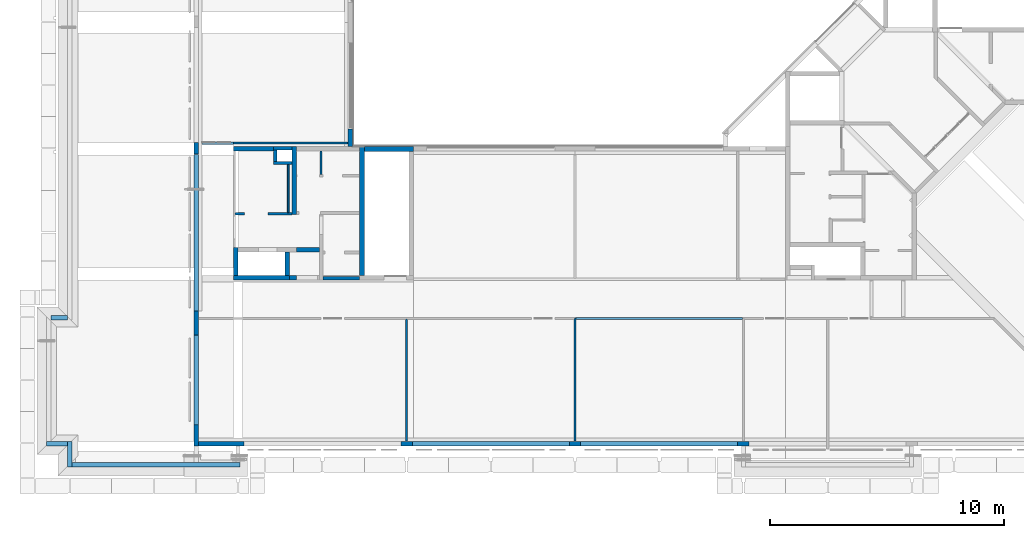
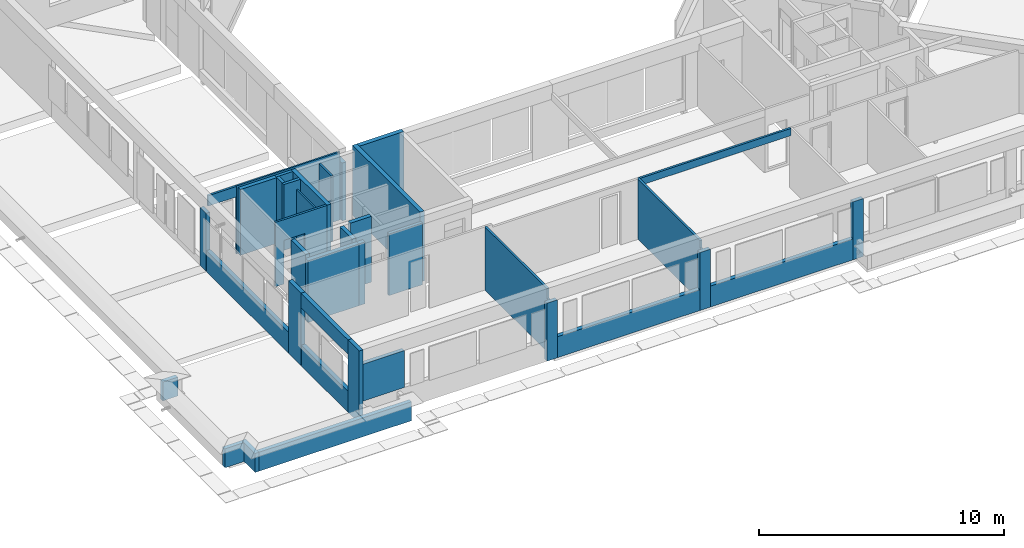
# One storey, part 10 of 38: 38 walls.
"""IFC4X3_ADD2 building model written with IfcOpenShell, lengths in millimetres."""

from ifc_helpers import new_model, si_unit, direction, frame, frame_2d, origin_with_axes, origin_2d_with_axis, place, context, subcontext, project, spatial, polyline, rectangle, outline, extrude, source, transform, mapped, material, type_object, type_shapes, element, save


model = new_model("IFC4X3_ADD2")

# Units and contexts
model_context = context("Model", 3, precision=1e-05, world=origin_with_axes(), true_north=direction((0.0, 1.0)))
body_context = subcontext(model_context, "Body", "Model", "MODEL_VIEW")
ifc_project = project(units=[si_unit("LENGTHUNIT", "METRE", prefix="MILLI"), si_unit("AREAUNIT", "SQUARE_METRE"), si_unit("VOLUMEUNIT", "CUBIC_METRE"), si_unit("PLANEANGLEUNIT", "RADIAN"), si_unit("TIMEUNIT", "SECOND"), si_unit("MASSUNIT", "GRAM")], contexts=[model_context])

# Site, building, storey
site_placement = place(None, origin_with_axes())
site = spatial("IfcSite", under=ifc_project, at=site_placement, Name="Site", CompositionType="ELEMENT")
building_placement = place(site_placement, origin_with_axes())
building = spatial("IfcBuilding", under=site, at=building_placement, Name="IFC Building Story")
storey_placement = place(building_placement, frame((0.0, 0.0, 10800.0), z_axis=(0.0, 0.0, 1.0), x_axis=(1.0, 0.0, 0.0)))
storey = spatial("IfcBuildingStorey", under=building, at=storey_placement, Name="030", Elevation=10800.0)

# Walls
ifc_material_1 = material(Name="BB_Beton_Bestaand")
wall_type_1 = type_object("IfcWallType", Name="BB_Beton_Bestaand 200", PredefinedType="NOTDEFINED", material=ifc_material_1)
wall_1_placement = place(storey_placement, origin_with_axes())
element("IfcWall", 1, at=wall_1_placement, inside=storey, type_object=wall_type_1, Name="Basic Wall:BB_XX_Wand uit beton, 200 mm", ObjectType="Basic Wall:BB_XX_Wand uit beton, 200 mm", PredefinedType="SOLIDWALL", context=body_context, shape_type="SweptSolid", body=[
    extrude(rectangle(XDim=2100.000000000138, YDim=199.9999999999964, at=origin_2d_with_axis()), frame((-37049.99999999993, 12600.004065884, -80.0), z_axis=(0.0, 0.0, 1.0), x_axis=(1.0, 0.0, 0.0)), (0.0, 0.0, 1.0), 3480.0),
])
wall_2_placement = place(storey_placement, origin_with_axes())
element("IfcWall", 2, at=wall_2_placement, inside=storey, type_object=wall_type_1, Name="Basic Wall:BB_XX_Wand uit beton, 200 mm", ObjectType="Basic Wall:BB_XX_Wand uit beton, 200 mm", PredefinedType="SOLIDWALL", context=body_context, shape_type="SweptSolid", body=[
    extrude(rectangle(XDim=5500.004065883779, YDim=200.0, at=frame_2d((0.0, 0.0), x_axis=(0.0, 1.0))), frame((-38200.0, 9950.00203294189, -80.0), z_axis=(0.0, 0.0, 1.0), x_axis=(1.0, 0.0, 0.0)), (0.0, 0.0, 1.0), 3480.0),
])
wall_3_placement = place(storey_placement, origin_with_axes())
element("IfcWall", 3, at=wall_3_placement, inside=storey, type_object=wall_type_1, Name="Basic Wall:BB_XX_Wand uit beton, 200 mm", ObjectType="Basic Wall:BB_XX_Wand uit beton, 200 mm", PredefinedType="SOLIDWALL", context=body_context, shape_type="SweptSolid", body=[
    extrude(rectangle(XDim=300.0, YDim=200.0, at=origin_2d_with_axis()), frame((-41150.0, 7100.0, -80.0), z_axis=(0.0, 0.0, 1.0), x_axis=(1.0, 0.0, 0.0)), (0.0, 0.0, 1.0), 3070.0),
])
wall_type_2 = type_object("IfcWallType", Name="BB_Beton_Bestaand 190", PredefinedType="NOTDEFINED", material=ifc_material_1)
wall_4_placement = place(storey_placement, origin_with_axes())
element("IfcWall", 4, at=wall_4_placement, inside=storey, type_object=wall_type_2, Name="Basic Wall:BB_XX_Wand uit beton, 190 mm", ObjectType="Basic Wall:BB_XX_Wand uit beton, 190 mm", PredefinedType="SOLIDWALL", context=body_context, shape_type="SweptSolid", body=[
    extrude(rectangle(XDim=489.9999999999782, YDim=190.0, at=origin_2d_with_axis()), frame((-36300.00000000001, 0.0, -200.0), z_axis=(0.0, 0.0, 1.0), x_axis=(1.0, 0.0, 0.0)), (0.0, 0.0, 1.0), 2879.99999999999),
])
wall_5_placement = place(storey_placement, origin_with_axes())
element("IfcWall", 5, at=wall_5_placement, inside=storey, type_object=wall_type_2, Name="Basic Wall:BB_XX_Wand uit beton, 190 mm", ObjectType="Basic Wall:BB_XX_Wand uit beton, 190 mm", PredefinedType="SOLIDWALL", context=body_context, shape_type="SweptSolid", body=[
    extrude(rectangle(XDim=6709.999999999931, YDim=190.0, at=origin_2d_with_axis()), frame((-25500.00000000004, 0.0, -200.0), z_axis=(0.0, 0.0, 1.0), x_axis=(1.0, 0.0, 0.0)), (0.0, 0.0, 1.0), 1040.0),
])
wall_6_placement = place(storey_placement, origin_with_axes())
element("IfcWall", 6, at=wall_6_placement, inside=storey, type_object=wall_type_2, Name="Basic Wall:BB_XX_Wand uit beton, 190 mm", ObjectType="Basic Wall:BB_XX_Wand uit beton, 190 mm", PredefinedType="SOLIDWALL", context=body_context, shape_type="SweptSolid", body=[
    extrude(rectangle(XDim=7180.000000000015, YDim=190.0, at=origin_2d_with_axis()), frame((-47014.99999999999, -900.0, -200.0), z_axis=(0.0, 0.0, 1.0), x_axis=(1.0, 0.0, 0.0)), (0.0, 0.0, 1.0), 940.000000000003),
])
wall_7_placement = place(storey_placement, origin_with_axes())
element("IfcWall", 7, at=wall_7_placement, inside=storey, type_object=wall_type_2, Name="Basic Wall:BB_XX_Wand uit beton, 190 mm", ObjectType="Basic Wall:BB_XX_Wand uit beton, 190 mm", PredefinedType="SOLIDWALL", context=body_context, shape_type="SweptSolid", body=[
    extrude(rectangle(XDim=1089.99999999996, YDim=189.9999999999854, at=frame_2d((0.0, 0.0), x_axis=(0.0, 1.0))), frame((-50700.0, -450.00000000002, -200.0), z_axis=(0.0, 0.0, 1.0), x_axis=(1.0, 0.0, 0.0)), (0.0, 0.0, 1.0), 940.000000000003),
])
wall_8_placement = place(storey_placement, origin_with_axes())
element("IfcWall", 8, at=wall_8_placement, inside=storey, type_object=wall_type_2, Name="Basic Wall:BB_XX_Wand uit beton, 190 mm", ObjectType="Basic Wall:BB_XX_Wand uit beton, 190 mm", PredefinedType="SOLIDWALL", context=body_context, shape_type="SweptSolid", body=[
    extrude(rectangle(XDim=900.0000000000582, YDim=190.0, at=origin_2d_with_axis()), frame((-51245.00000000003, 0.0, -200.0), z_axis=(0.0, 0.0, 1.0), x_axis=(1.0, 0.0, 0.0)), (0.0, 0.0, 1.0), 940.000000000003),
])
wall_9_placement = place(storey_placement, origin_with_axes())
element("IfcWall", 9, at=wall_9_placement, inside=storey, type_object=wall_type_2, Name="Basic Wall:BB_XX_Wand uit beton, 190 mm", ObjectType="Basic Wall:BB_XX_Wand uit beton, 190 mm", PredefinedType="SOLIDWALL", context=body_context, shape_type="SweptSolid", body=[
    extrude(rectangle(XDim=910.00000000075, YDim=189.9999999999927, at=frame_2d((0.0, 0.0), x_axis=(0.0, 1.0))), frame((-45285.0, 360.000000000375, -200.0), z_axis=(0.0, 0.0, 1.0), x_axis=(1.0, 0.0, 0.0)), (0.0, 0.0, 1.0), 3600.0),
])
wall_10_placement = place(storey_placement, origin_with_axes())
element("IfcWall", 10, at=wall_10_placement, inside=storey, type_object=wall_type_2, Name="Basic Wall:BB_XX_Wand uit beton, 190 mm", ObjectType="Basic Wall:BB_XX_Wand uit beton, 190 mm", PredefinedType="SOLIDWALL", context=body_context, shape_type="SweptSolid", body=[
    extrude(rectangle(XDim=489.9999999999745, YDim=190.0, at=origin_2d_with_axis()), frame((-29100.00000000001, 0.0, -200.0), z_axis=(0.0, 0.0, 1.0), x_axis=(1.0, 0.0, 0.0)), (0.0, 0.0, 1.0), 2879.99999999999),
])
wall_11_placement = place(storey_placement, origin_with_axes())
element("IfcWall", 11, at=wall_11_placement, inside=storey, type_object=wall_type_2, Name="Basic Wall:BB_XX_Wand uit beton, 190 mm", ObjectType="Basic Wall:BB_XX_Wand uit beton, 190 mm", PredefinedType="SOLIDWALL", context=body_context, shape_type="SweptSolid", body=[
    extrude(rectangle(XDim=489.9999999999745, YDim=190.0, at=origin_2d_with_axis()), frame((-21900.00000000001, 0.0, -200.0), z_axis=(0.0, 0.0, 1.0), x_axis=(1.0, 0.0, 0.0)), (0.0, 0.0, 1.0), 2879.99999999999),
])
wall_12_placement = place(storey_placement, origin_with_axes())
element("IfcWall", 12, at=wall_12_placement, inside=storey, type_object=wall_type_2, Name="Basic Wall:BB_XX_Wand uit beton, 190 mm", ObjectType="Basic Wall:BB_XX_Wand uit beton, 190 mm", PredefinedType="SOLIDWALL", context=body_context, shape_type="SweptSolid", body=[
    extrude(rectangle(XDim=6709.999999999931, YDim=190.0, at=origin_2d_with_axis()), frame((-32700.00000000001, 0.0, -200.0), z_axis=(0.0, 0.0, 1.0), x_axis=(1.0, 0.0, 0.0)), (0.0, 0.0, 1.0), 1040.0),
])
wall_13_placement = place(storey_placement, origin_with_axes())
element("IfcWall", 13, at=wall_13_placement, inside=storey, type_object=wall_type_2, Name="Basic Wall:BB_XX_Wand uit beton, 190 mm", ObjectType="Basic Wall:BB_XX_Wand uit beton, 190 mm", PredefinedType="SOLIDWALL", context=body_context, shape_type="SweptSolid", body=[
    extrude(rectangle(XDim=1934.999999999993, YDim=190.0, at=origin_2d_with_axis()), frame((-44222.49999999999, 0.0, 840.0), z_axis=(0.0, 0.0, 1.0), x_axis=(1.0, 0.0, 0.0)), (0.0, 0.0, 1.0), 1840.0),
])
wall_14_placement = place(storey_placement, origin_with_axes())
element("IfcWall", 14, at=wall_14_placement, inside=storey, type_object=wall_type_2, Name="Basic Wall:BB_XX_Wand uit beton, 190 mm", ObjectType="Basic Wall:BB_XX_Wand uit beton, 190 mm", PredefinedType="SOLIDWALL", context=body_context, shape_type="SweptSolid", body=[
    extrude(rectangle(XDim=489.9999999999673, YDim=189.9999999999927, at=frame_2d((0.0, 0.0), x_axis=(0.0, 1.0))), frame((-45285.0, 12629.99999999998, -200.0), z_axis=(0.0, 0.0, 1.0), x_axis=(1.0, 0.0, 0.0)), (0.0, 0.0, 1.0), 2879.99999999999),
])
wall_15_placement = place(storey_placement, origin_with_axes())
element("IfcWall", 15, at=wall_15_placement, inside=storey, type_object=wall_type_2, Name="Basic Wall:BB_XX_Wand uit beton, 190 mm", ObjectType="Basic Wall:BB_XX_Wand uit beton, 190 mm", PredefinedType="SOLIDWALL", context=body_context, shape_type="SweptSolid", body=[
    extrude(rectangle(XDim=6710.0000000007, YDim=189.9999999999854, at=frame_2d((0.0, 0.0), x_axis=(0.0, 1.0))), frame((-45285.0, 9000.00000000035, -200.0), z_axis=(0.0, 0.0, 1.0), x_axis=(1.0, 0.0, 0.0)), (0.0, 0.0, 1.0), 1040.0),
])
wall_16_placement = place(storey_placement, origin_with_axes())
element("IfcWall", 16, at=wall_16_placement, inside=storey, type_object=wall_type_2, Name="Basic Wall:BB_XX_Wand uit beton, 190 mm", ObjectType="Basic Wall:BB_XX_Wand uit beton, 190 mm", PredefinedType="SOLIDWALL", context=body_context, shape_type="SweptSolid", body=[
    extrude(rectangle(XDim=754.995934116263, YDim=190.0, at=frame_2d((0.0, 0.0), x_axis=(0.0, 1.0))), frame((-38700.0, 13077.50203294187, -200.0), z_axis=(0.0, 0.0, 1.0), x_axis=(1.0, 0.0, 0.0)), (0.0, 0.0, 1.0), 2880.0),
])
wall_17_placement = place(storey_placement, origin_with_axes())
element("IfcWall", 17, at=wall_17_placement, inside=storey, type_object=wall_type_2, Name="Basic Wall:BB_XX_Wand uit beton, 190 mm", ObjectType="Basic Wall:BB_XX_Wand uit beton, 190 mm", PredefinedType="SOLIDWALL", context=body_context, shape_type="SweptSolid", body=[
    extrude(rectangle(XDim=1029.99999999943, YDim=189.9999999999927, at=frame_2d((0.0, 0.0), x_axis=(0.0, 1.0))), frame((-45285.0, 5159.999999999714, -200.0), z_axis=(0.0, 0.0, 1.0), x_axis=(1.0, 0.0, 0.0)), (0.0, 0.0, 1.0), 3600.0),
])
wall_18_placement = place(storey_placement, origin_with_axes())
element("IfcWall", 18, at=wall_18_placement, inside=storey, type_object=wall_type_2, Name="Basic Wall:BB_XX_Wand uit beton, 190 mm", ObjectType="Basic Wall:BB_XX_Wand uit beton, 190 mm", PredefinedType="SOLIDWALL", context=body_context, shape_type="SweptSolid", body=[
    extrude(rectangle(XDim=3830.0, YDim=189.9999999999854, at=frame_2d((0.0, 0.0), x_axis=(0.0, 1.0))), frame((-45285.0, 2730.0, 2680.0), z_axis=(0.0, 0.0, 1.0), x_axis=(1.0, 0.0, 0.0)), (0.0, 0.0, 1.0), 720.000000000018),
])
wall_19_placement = place(storey_placement, origin_with_axes())
element("IfcWall", 19, at=wall_19_placement, inside=storey, type_object=wall_type_2, Name="Basic Wall:BB_XX_Wand uit beton, 190 mm", ObjectType="Basic Wall:BB_XX_Wand uit beton, 190 mm", PredefinedType="SOLIDWALL", context=body_context, shape_type="SweptSolid", body=[
    extrude(rectangle(XDim=3830.0, YDim=189.9999999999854, at=frame_2d((0.0, 0.0), x_axis=(0.0, 1.0))), frame((-45285.0, 2700.0, -200.0), z_axis=(0.0, 0.0, 1.0), x_axis=(1.0, 0.0, 0.0)), (0.0, 0.0, 1.0), 1040.0),
])
ifc_material_2 = material(Name="BB_Metselwerk_Bestaand")
wall_type_3 = type_object("IfcWallType", Name="BB_Metselwerk_Bestaand 140", PredefinedType="NOTDEFINED", material=ifc_material_2)
wall_20_placement = place(storey_placement, origin_with_axes())
element("IfcWall", 20, at=wall_20_placement, inside=storey, type_object=wall_type_3, Name="Basic Wall:BB_XX_Wand uit metselwerk, 140 mm", ObjectType="Basic Wall:BB_XX_Wand uit metselwerk, 140 mm", PredefinedType="SOLIDWALL", context=body_context, shape_type="SweptSolid", body=[
    extrude(rectangle(XDim=790.0, YDim=140.0, at=origin_2d_with_axis()), frame((-41585.0, 12000.0040658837, -80.0), z_axis=(0.0, 0.0, 1.0), x_axis=(1.0, 0.0, 0.0)), (0.0, 0.0, 1.0), 3270.0),
])
wall_21_placement = place(storey_placement, origin_with_axes())
element("IfcWall", 21, at=wall_21_placement, inside=storey, type_object=wall_type_3, Name="Basic Wall:BB_XX_Wand uit metselwerk, 140 mm", ObjectType="Basic Wall:BB_XX_Wand uit metselwerk, 140 mm", PredefinedType="SOLIDWALL", context=body_context, shape_type="SweptSolid", body=[
    extrude(rectangle(XDim=490.0000000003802, YDim=140.0, at=frame_2d((0.0, 0.0), x_axis=(0.0, 1.0))), frame((-41910.0, 12315.00406588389, -80.0), z_axis=(0.0, 0.0, 1.0), x_axis=(1.0, 0.0, 0.0)), (0.0, 0.0, 1.0), 3270.0),
])
wall_22_placement = place(storey_placement, origin_with_axes())
element("IfcWall", 22, at=wall_22_placement, inside=storey, type_object=wall_type_3, Name="Basic Wall:BB_XX_Wand uit metselwerk, 140 mm", ObjectType="Basic Wall:BB_XX_Wand uit metselwerk, 140 mm", PredefinedType="SOLIDWALL", context=body_context, shape_type="SweptSolid", body=[
    extrude(rectangle(XDim=790.0000000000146, YDim=140.0, at=origin_2d_with_axis()), frame((-41584.99999999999, 12630.004065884, -80.0), z_axis=(0.0, 0.0, 1.0), x_axis=(1.0, 0.0, 0.0)), (0.0, 0.0, 1.0), 3270.0),
])
wall_23_placement = place(storey_placement, origin_with_axes())
element("IfcWall", 23, at=wall_23_placement, inside=storey, type_object=wall_type_3, Name="Basic Wall:BB_XX_Wand uit metselwerk, 140 mm", ObjectType="Basic Wall:BB_XX_Wand uit metselwerk, 140 mm", PredefinedType="SOLIDWALL", context=body_context, shape_type="SweptSolid", body=[
    extrude(rectangle(XDim=1569.999999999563, YDim=140.0, at=origin_2d_with_axis()), frame((-39085.00000000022, 7070.0, -80.0), z_axis=(0.0, 0.0, 1.0), x_axis=(1.0, 0.0, 0.0)), (0.0, 0.0, 1.0), 3070.0),
])
wall_type_4 = type_object("IfcWallType", Name="BB_Metselwerk_Bestaand 190", PredefinedType="NOTDEFINED", material=ifc_material_2)
wall_24_placement = place(storey_placement, origin_with_axes())
element("IfcWall", 24, at=wall_24_placement, inside=storey, type_object=wall_type_4, Name="Basic Wall:BB_XX_Wand uit metselwerk, 190 mm", ObjectType="Basic Wall:BB_XX_Wand uit metselwerk, 190 mm", PredefinedType="SOLIDWALL", context=body_context, shape_type="SweptSolid", body=[
    extrude(rectangle(XDim=1189.999999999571, YDim=189.9999999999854, at=frame_2d((0.0, 0.0), x_axis=(0.0, 1.0))), frame((-43595.0, 7794.999999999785, -80.0), z_axis=(0.0, 0.0, 1.0), x_axis=(1.0, 0.0, 0.0)), (0.0, 0.0, 1.0), 3270.0),
])
wall_25_placement = place(storey_placement, origin_with_axes())
element("IfcWall", 25, at=wall_25_placement, inside=storey, type_object=wall_type_4, Name="Basic Wall:BB_XX_Wand uit metselwerk, 190 mm", ObjectType="Basic Wall:BB_XX_Wand uit metselwerk, 190 mm", PredefinedType="SOLIDWALL", context=body_context, shape_type="SweptSolid", body=[
    extrude(rectangle(XDim=999.9999999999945, YDim=189.9999999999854, at=frame_2d((0.0, 0.0), x_axis=(0.0, 1.0))), frame((-41405.0, 7700.00000000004, -80.0), z_axis=(0.0, 0.0, 1.0), x_axis=(1.0, 0.0, 0.0)), (0.0, 0.0, 1.0), 3270.0),
])
wall_26_placement = place(storey_placement, origin_with_axes())
element("IfcWall", 26, at=wall_26_placement, inside=storey, type_object=wall_type_4, Name="Basic Wall:BB_XX_Wand uit metselwerk, 190 mm", ObjectType="Basic Wall:BB_XX_Wand uit metselwerk, 190 mm", PredefinedType="SOLIDWALL", context=body_context, shape_type="SweptSolid", body=[
    extrude(rectangle(XDim=2908.96000000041, YDim=189.9999999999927, at=frame_2d((0.0, 0.0), x_axis=(0.0, 1.0))), frame((-41095.0, 11245.52406588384, -80.0), z_axis=(0.0, 0.0, 1.0), x_axis=(1.0, 0.0, 0.0)), (0.0, 0.0, 1.0), 3270.0),
])
ifc_material_3 = material(Name="BB_Metselwerk_Betonsteen")
wall_type_5 = type_object("IfcWallType", Name="BB_Metselwerk_Betonsteen 190", PredefinedType="NOTDEFINED", material=ifc_material_3)
wall_27_placement = place(storey_placement, origin_with_axes())
element("IfcWall", 27, at=wall_27_placement, inside=storey, type_object=wall_type_5, Name="Basic Wall:BB_03.09.24#03_Wand uit metselwerk, 190 mm", ObjectType="Basic Wall:BB_03.09.24#03_Wand uit metselwerk, 190 mm", PredefinedType="SOLIDWALL", context=body_context, shape_type="SweptSolid", body=[
    extrude(rectangle(XDim=709.9999999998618, YDim=190.0, at=origin_2d_with_axis()), frame((-51149.99999999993, 5380.0, -200.0), z_axis=(0.0, 0.0, 1.0), x_axis=(1.0, 0.0, 0.0)), (0.0, 0.0, 1.0), 940.000000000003),
])
wall_28_placement = place(storey_placement, origin_with_axes())
element("IfcWall", 28, at=wall_28_placement, inside=storey, type_object=wall_type_5, Name="Basic Wall:BB_03.09.24#03_Wand uit metselwerk, 190 mm", ObjectType="Basic Wall:BB_03.09.24#03_Wand uit metselwerk, 190 mm", PredefinedType="SOLIDWALL", context=body_context, shape_type="SweptSolid", body=[
    extrude(rectangle(XDim=990.0, YDim=190.0, at=origin_2d_with_axis()), frame((-40505.0, 8295.0, -80.0), z_axis=(0.0, 0.0, 1.0), x_axis=(1.0, 0.0, 0.0)), (0.0, 0.0, 1.0), 3270.0),
])
wall_29_placement = place(storey_placement, origin_with_axes())
element("IfcWall", 29, at=wall_29_placement, inside=storey, type_object=wall_type_5, Name="Basic Wall:BB_03.09.24#04_Wand uit metselwerk_vol, 190 mm", ObjectType="Basic Wall:BB_03.09.24#04_Wand uit metselwerk_vol, 190 mm", PredefinedType="SOLIDWALL", context=body_context, shape_type="SweptSolid", body=[
    extrude(rectangle(XDim=1710.0, YDim=190.0, at=origin_2d_with_axis()), frame((-42835.0, 12605.004065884, -80.0), z_axis=(0.0, 0.0, 1.0), x_axis=(1.0, 0.0, 0.0)), (0.0, 0.0, 1.0), 3270.0),
])
wall_type_6 = type_object("IfcWallType", Name="Basic Wall_BB_10.01.41#02_Gipskartonwand_Vochtbestendig_MS100 _ 25.50.25_ 100 mm", PredefinedType="NOTDEFINED")
shared_shape_1 = source(origin_with_axes(), body_context, "Body", "SweptSolid", [
    extrude(outline(polyline([(1046.250000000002, 1342.500000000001), (1046.250000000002, -1857.499999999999), (-1368.750000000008, -1857.499999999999), (-1368.750000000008, 1342.500000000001), (-333.7499999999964, 1342.500000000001), (-333.7499999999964, -827.5000000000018), (656.2500000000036, -827.5000000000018), (656.2500000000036, 1342.500000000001), (1046.250000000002, 1342.500000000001)])), frame((1368.749999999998, 37.50000000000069, 1342.500000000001), z_axis=(0.0, 1.0, 0.0), x_axis=(1.0, 0.0, 0.0)), (0.0, 0.0, 1.0), 12.49999999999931),
    extrude(outline(polyline([(-1371.875000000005, 1342.500000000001), (-336.8749999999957, 1342.500000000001), (-336.8749999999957, -827.500000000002), (653.1250000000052, -827.500000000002), (653.1250000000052, 1342.500000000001), (1055.624999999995, 1342.500000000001), (1055.624999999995, -1857.499999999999), (-1371.875000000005, -1857.499999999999), (-1371.875000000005, 1342.500000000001)])), frame((1371.875000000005, 25.0, 1342.500000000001), z_axis=(0.0, 1.0, 0.0), x_axis=(1.0, 0.0, 0.0)), (0.0, 0.0, 1.0), 12.49999999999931),
    extrude(outline(polyline([(-1375.000000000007, 1342.500000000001), (-339.9999999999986, 1342.500000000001), (-339.9999999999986, -827.500000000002), (650.0000000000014, -827.500000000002), (650.0000000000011, 1342.500000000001), (1065.000000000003, 1342.500000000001), (1065.000000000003, -1857.499999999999), (-1375.000000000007, -1857.499999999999), (-1375.000000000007, 1342.500000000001)])), frame((1375.000000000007, -25.0000000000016, 1342.500000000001), z_axis=(0.0, 1.0, 0.0), x_axis=(1.0, 0.0, 0.0)), (0.0, 0.0, 1.0), 50.00000000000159),
    extrude(outline(polyline([(-1368.750000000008, 1342.500000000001), (-333.7499999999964, 1342.500000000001), (-333.7499999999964, -827.5000000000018), (656.2500000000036, -827.5000000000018), (656.2500000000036, 1342.500000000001), (1046.250000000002, 1342.500000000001), (1046.250000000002, -1857.499999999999), (-1368.750000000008, -1857.499999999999), (-1368.750000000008, 1342.500000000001)])), frame((1368.749999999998, -37.49999999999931, 1342.500000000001), z_axis=(0.0, 1.0, 0.0), x_axis=(1.0, 0.0, 0.0)), (0.0, 0.0, 1.0), 12.49999999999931),
    extrude(outline(polyline([(-1368.750000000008, 1342.500000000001), (-333.7499999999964, 1342.500000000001), (-333.7499999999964, -827.5000000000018), (656.2500000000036, -827.5000000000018), (656.2500000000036, 1342.500000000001), (1046.250000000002, 1342.500000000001), (1046.250000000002, -1857.499999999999), (-1368.750000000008, -1857.499999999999), (-1368.750000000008, 1342.500000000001)])), frame((1368.749999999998, -49.9999999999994, 1342.500000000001), z_axis=(0.0, 1.0, 0.0), x_axis=(1.0, 0.0, 0.0)), (0.0, 0.0, 1.0), 12.4999999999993),
])
type_shapes(wall_type_6, [shared_shape_1])
wall_30_placement = place(storey_placement, frame((-41190.0, 9826.04406588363, -10.0), z_axis=(0.0, 0.0, 1.0), x_axis=(-1.0, 0.0, 0.0)))
element("IfcWall", 30, at=wall_30_placement, inside=storey, type_object=wall_type_6, Name="Basic Wall:BB_10.01.41#02_Gipskartonwand_Vochtbestendig_MS100 / 25.50.25, 100 mm", ObjectType="Basic Wall:BB_10.01.41#02_Gipskartonwand_Vochtbestendig_MS100 / 25.50.25, 100 mm", PredefinedType="PARTITIONING", context=body_context, shape_type="MappedRepresentation", body=[
    mapped(shared_shape_1, transform((0.0, 0.0, 0.0))),
])
wall_type_7 = type_object("IfcWallType", Name="Basic Wall_BB_10.01.41#03_Gipskartonwand_43dB_MS100 _ 25.50.25_ 100 mm83", PredefinedType="NOTDEFINED")
shared_shape_2 = source(origin_with_axes(), body_context, "Body", "SweptSolid", [
    extrude(outline(polyline([(-1775.83333333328, -760.0000000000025), (-1775.83333333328, 1880.000000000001), (3416.66666666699, 1880.000000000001), (3416.66666666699, -1119.999999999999), (-1640.833333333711, -1119.999999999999), (-1640.833333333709, -760.0000000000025), (-1775.83333333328, -760.0000000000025)])), frame((1775.83333333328, 37.49999999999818, 1880.000000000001), z_axis=(0.0, 1.0, 0.0), x_axis=(1.0, 0.0, 0.0)), (0.0, 0.0, 1.0), 12.50000000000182),
    extrude(outline(polyline([(-1779.999999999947, -760.0), (-1779.999999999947, 1880.0), (3425.000000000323, 1880.0), (3425.000000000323, -1120.0), (-1645.000000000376, -1120.0), (-1645.000000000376, -760.0), (-1779.999999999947, -760.0)])), frame((1779.999999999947, 24.99999999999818, 1880.0), z_axis=(0.0, 1.0, 0.0), x_axis=(1.0, 0.0, 0.0)), (0.0, 0.0, 1.0), 12.50000000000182),
    extrude(outline(polyline([(-1793.333333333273, -759.9999999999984), (-1793.333333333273, 1880.0), (3461.666666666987, 1880.0), (3461.666666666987, -1120.0), (-1668.333333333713, -1120.0), (-1668.333333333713, -760.0), (-1793.333333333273, -759.9999999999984)])), frame((1793.333333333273, -24.99999999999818, 1880.0), z_axis=(0.0, 1.0, 0.0), x_axis=(1.0, 0.0, 0.0)), (0.0, 0.0, 1.0), 49.99999999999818),
    extrude(outline(polyline([(-1800.83333333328, -760.0000000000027), (-1800.83333333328, 1880.0), (3466.66666666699, 1880.0), (3466.66666666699, -1119.999999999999), (-1665.833333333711, -1119.999999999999), (-1665.833333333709, -760.0), (-1800.83333333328, -760.0000000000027)])), frame((1800.83333333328, -37.50000000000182, 1880.0), z_axis=(0.0, 1.0, 0.0), x_axis=(1.0, 0.0, 0.0)), (0.0, 0.0, 1.0), 12.50000000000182),
    extrude(outline(polyline([(-1804.999999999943, -760.0), (-1804.999999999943, 1880.0), (3475.000000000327, 1880.0), (3475.000000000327, -1120.0), (-1670.000000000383, -1120.0), (-1670.000000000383, -760.0), (-1804.999999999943, -760.0)])), frame((1804.999999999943, -49.99999999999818, 1880.0), z_axis=(0.0, 1.0, 0.0), x_axis=(1.0, 0.0, 0.0)), (0.0, 0.0, 1.0), 12.49999999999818),
])
type_shapes(wall_type_7, [shared_shape_2])
wall_31_placement = place(storey_placement, frame((-29100.0, 120.0, 0.0), z_axis=(0.0, 0.0, 1.0), x_axis=(0.0, 1.0, 0.0)))
element("IfcWall", 31, at=wall_31_placement, inside=storey, type_object=wall_type_7, Name="Basic Wall:BB_10.01.41#03_Gipskartonwand_43dB_MS100 / 25.50.25, 100 mm", ObjectType="Basic Wall:BB_10.01.41#03_Gipskartonwand_43dB_MS100 / 25.50.25, 100 mm", PredefinedType="PARTITIONING", context=body_context, shape_type="MappedRepresentation", body=[
    mapped(shared_shape_2, transform((0.0, 0.0, 0.0))),
])
wall_type_8 = type_object("IfcWallType", Name="Basic Wall_BB_10.01.41#03_Gipskartonwand_43dB_MS100 _ 25.50.25_ 100 mm85", PredefinedType="NOTDEFINED")
shared_shape_3 = source(origin_with_axes(), body_context, "Body", "SweptSolid", [
    extrude(outline(polyline([(-1771.66666666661, 1926.666666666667), (3408.33333333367, 1926.666666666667), (3408.33333333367, -1213.333333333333), (-1636.666666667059, -1213.333333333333), (-1636.666666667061, -713.3333333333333), (-1771.66666666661, -713.3333333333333), (-1771.66666666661, 1926.666666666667)])), frame((1771.66666666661, 37.5, 1926.666666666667), z_axis=(0.0, 1.0, 0.0), x_axis=(1.0, 0.0, 0.0)), (0.0, 0.0, 1.0), 12.5),
    extrude(outline(polyline([(-1775.833333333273, -713.3333333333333), (-1775.833333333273, 1926.666666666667), (3416.666666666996, 1926.666666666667), (3416.666666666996, -1213.333333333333), (-1640.833333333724, -1213.333333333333), (-1640.833333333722, -713.3333333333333), (-1775.833333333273, -713.3333333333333)])), frame((1775.833333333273, 25.0, 1926.666666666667), z_axis=(0.0, 1.0, 0.0), x_axis=(1.0, 0.0, 0.0)), (0.0, 0.0, 1.0), 12.5),
    extrude(outline(polyline([(-1776.666666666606, -713.3333333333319), (-1776.666666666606, 1926.666666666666), (3428.333333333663, 1926.666666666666), (3428.333333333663, -1213.333333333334), (-1651.666666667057, -1213.333333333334), (-1651.666666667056, -713.3333333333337), (-1776.666666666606, -713.3333333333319)])), frame((1776.666666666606, -24.99999999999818, 1926.666666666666), z_axis=(0.0, 1.0, 0.0), x_axis=(1.0, 0.0, 0.0)), (0.0, 0.0, 1.0), 49.99999999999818),
    extrude(outline(polyline([(-1771.66666666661, 1926.666666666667), (3408.33333333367, 1926.666666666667), (3408.33333333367, -1213.333333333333), (-1636.666666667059, -1213.333333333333), (-1636.666666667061, -713.3333333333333), (-1771.66666666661, -713.3333333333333), (-1771.66666666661, 1926.666666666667)])), frame((1771.66666666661, -37.50000000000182, 1926.666666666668), z_axis=(0.0, 1.0, 0.0), x_axis=(1.0, 0.0, 0.0)), (0.0, 0.0, 1.0), 12.50000000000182),
    extrude(outline(polyline([(-1771.66666666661, 1926.666666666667), (3408.33333333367, 1926.666666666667), (3408.33333333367, -1213.333333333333), (-1636.666666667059, -1213.333333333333), (-1636.666666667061, -713.3333333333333), (-1771.66666666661, -713.3333333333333), (-1771.66666666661, 1926.666666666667)])), frame((1771.66666666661, -49.99999999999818, 1926.666666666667), z_axis=(0.0, 1.0, 0.0), x_axis=(1.0, 0.0, 0.0)), (0.0, 0.0, 1.0), 12.49999999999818),
])
type_shapes(wall_type_8, [shared_shape_3])
wall_32_placement = place(storey_placement, frame((-36300.0, 120.0, 0.0), z_axis=(0.0, 0.0, 1.0), x_axis=(0.0, 1.0, 0.0)))
element("IfcWall", 32, at=wall_32_placement, inside=storey, type_object=wall_type_8, Name="Basic Wall:BB_10.01.41#03_Gipskartonwand_43dB_MS100 / 25.50.25, 100 mm", ObjectType="Basic Wall:BB_10.01.41#03_Gipskartonwand_43dB_MS100 / 25.50.25, 100 mm", PredefinedType="PARTITIONING", context=body_context, shape_type="MappedRepresentation", body=[
    mapped(shared_shape_3, transform((0.0, 0.0, 0.0))),
])
wall_type_9 = type_object("IfcWallType", Name="Basic Wall_BB_10.01.62#02_Voorzetwand gipskarton_ sanitair_MS75 _ 50.25_ 75 mm13", PredefinedType="NOTDEFINED")
shared_shape_4 = source(origin_with_axes(), body_context, "Body", "SweptSolid", [
    extrude(rectangle(XDim=2053.96000000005, YDim=12.49999999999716, at=origin_2d_with_axis()), frame((1026.980000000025, 31.25000000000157, 0.0), z_axis=(0.0, 0.0, 1.0), x_axis=(1.0, 0.0, 0.0)), (0.0, 0.0, 1.0), 2750.0),
    extrude(rectangle(XDim=2053.96000000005, YDim=12.50000000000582, at=origin_2d_with_axis()), frame((1026.980000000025, 18.7500000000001, 0.0), z_axis=(0.0, 0.0, 1.0), x_axis=(1.0, 0.0, 0.0)), (0.0, 0.0, 1.0), 2750.0),
    extrude(rectangle(XDim=2053.96000000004, YDim=49.9999999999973, at=origin_2d_with_axis()), frame((1026.980000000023, -12.50000000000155, 0.0), z_axis=(0.0, 0.0, 1.0), x_axis=(1.0, 0.0, 0.0)), (0.0, 0.0, 1.0), 2750.0),
])
type_shapes(wall_type_9, [shared_shape_4])
wall_33_placement = place(storey_placement, frame((-41352.4999999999, 9876.04406588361, -10.0), z_axis=(0.0, 0.0, 1.0), x_axis=(0.0, 1.0, 0.0)))
element("IfcWall", 33, at=wall_33_placement, inside=storey, type_object=wall_type_9, Name="Basic Wall:BB_10.01.62#02_Voorzetwand gipskarton, sanitair_MS75 / 50.25, 75 mm", ObjectType="Basic Wall:BB_10.01.62#02_Voorzetwand gipskarton, sanitair_MS75 / 50.25, 75 mm", PredefinedType="PARTITIONING", context=body_context, shape_type="MappedRepresentation", body=[
    mapped(shared_shape_4, transform((0.0, 0.0, 0.0))),
])
wall_type_10 = type_object("IfcWallType", Name="Basic Wall_BB_10.01.41#01_Gipskartonwand_MS100 _ 25.50.25_ 100 mm145", PredefinedType="NOTDEFINED")
shared_shape_5 = source(origin_with_axes(), body_context, "Body", "SweptSolid", [
    extrude(rectangle(XDim=1334.999999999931, YDim=12.49999999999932, at=origin_2d_with_axis()), frame((667.4999999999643, 43.74999999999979, 0.0), z_axis=(0.0, 0.0, 1.0), x_axis=(1.0, 0.0, 0.0)), (0.0, 0.0, 1.0), 520.000000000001),
    extrude(rectangle(XDim=1334.999999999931, YDim=12.49999999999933, at=origin_2d_with_axis()), frame((667.4999999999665, 31.25000000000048, 0.0), z_axis=(0.0, 0.0, 1.0), x_axis=(1.0, 0.0, 0.0)), (0.0, 0.0, 1.0), 520.000000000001),
    extrude(rectangle(XDim=1334.999999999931, YDim=50.0000000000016, at=origin_2d_with_axis()), frame((667.4999999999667, 0.0, 0.0), z_axis=(0.0, 0.0, 1.0), x_axis=(1.0, 0.0, 0.0)), (0.0, 0.0, 1.0), 520.000000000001),
    extrude(rectangle(XDim=1334.999999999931, YDim=12.49999999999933, at=origin_2d_with_axis()), frame((667.4999999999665, -31.25000000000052, 0.0), z_axis=(0.0, 0.0, 1.0), x_axis=(1.0, 0.0, 0.0)), (0.0, 0.0, 1.0), 520.000000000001),
    extrude(rectangle(XDim=1334.999999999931, YDim=12.49999999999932, at=origin_2d_with_axis()), frame((667.4999999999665, -43.74999999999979, 0.0), z_axis=(0.0, 0.0, 1.0), x_axis=(1.0, 0.0, 0.0)), (0.0, 0.0, 1.0), 520.000000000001),
])
type_shapes(wall_type_10, [shared_shape_5])
wall_34_placement = place(storey_placement, frame((-45040.0, 12840.0040658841, 2670.0), z_axis=(0.0, 0.0, 1.0), x_axis=(1.0, 0.0, 0.0)))
element("IfcWall", 34, at=wall_34_placement, inside=storey, type_object=wall_type_10, Name="Basic Wall:BB_10.01.41#01_Gipskartonwand_MS100 / 25.50.25, 100 mm", ObjectType="Basic Wall:BB_10.01.41#01_Gipskartonwand_MS100 / 25.50.25, 100 mm", PredefinedType="PARTITIONING", context=body_context, shape_type="MappedRepresentation", body=[
    mapped(shared_shape_5, transform((0.0, 0.0, 0.0))),
])
wall_type_11 = type_object("IfcWallType", Name="Basic Wall_BB_10.01.62#01_Voorzetwand gipskarton_MS75 _ 50.25_ 75 mm29", PredefinedType="NOTDEFINED")
shared_shape_6 = source(origin_with_axes(), body_context, "Body", "SweptSolid", [
    extrude(rectangle(XDim=4884.9999999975, YDim=12.49999999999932, at=origin_2d_with_axis()), frame((2442.49999999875, 31.2500000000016, 0.0), z_axis=(0.0, 0.0, 1.0), x_axis=(1.0, 0.0, 0.0)), (0.0, 0.0, 1.0), 3390.0),
    extrude(rectangle(XDim=4884.9999999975, YDim=12.50000000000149, at=origin_2d_with_axis()), frame((2442.49999999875, 18.75000000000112, 0.0), z_axis=(0.0, 0.0, 1.0), x_axis=(1.0, 0.0, 0.0)), (0.0, 0.0, 1.0), 3390.0),
    extrude(rectangle(XDim=4884.9999999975, YDim=49.9999999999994, at=origin_2d_with_axis()), frame((2442.499999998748, -12.49999999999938, 0.0), z_axis=(0.0, 0.0, 1.0), x_axis=(1.0, 0.0, 0.0)), (0.0, 0.0, 1.0), 3390.0),
])
type_shapes(wall_type_11, [shared_shape_6])
wall_35_placement = place(storey_placement, frame((-43705.0, 12852.504065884, -200.0), z_axis=(0.0, 0.0, 1.0), x_axis=(1.0, 0.0, 0.0)))
element("IfcWall", 35, at=wall_35_placement, inside=storey, type_object=wall_type_11, Name="Basic Wall:BB_10.01.62#01_Voorzetwand gipskarton_MS75 / 50.25, 75 mm", ObjectType="Basic Wall:BB_10.01.62#01_Voorzetwand gipskarton_MS75 / 50.25, 75 mm", PredefinedType="PARTITIONING", context=body_context, shape_type="MappedRepresentation", body=[
    mapped(shared_shape_6, transform((0.0, 0.0, 0.0))),
])
wall_type_12 = type_object("IfcWallType", Name="Basic Wall_BB_10.01.41#01_Gipskartonwand_MS100 _ 25.50.25_ 100 mm147", PredefinedType="NOTDEFINED")
shared_shape_7 = source(origin_with_axes(), body_context, "Body", "SweptSolid", [
    extrude(rectangle(XDim=7099.99999999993, YDim=12.5000000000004, at=origin_2d_with_axis()), frame((3549.999999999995, 43.75000000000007, 0.0), z_axis=(0.0, 0.0, 1.0), x_axis=(1.0, 0.0, 0.0)), (0.0, 0.0, 1.0), 359.999999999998),
    extrude(rectangle(XDim=7099.99999999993, YDim=12.50000000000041, at=origin_2d_with_axis()), frame((3550.000000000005, 31.24999999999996, 0.0), z_axis=(0.0, 0.0, 1.0), x_axis=(1.0, 0.0, 0.0)), (0.0, 0.0, 1.0), 359.999999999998),
    extrude(rectangle(XDim=7099.99999999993, YDim=49.9999999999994, at=origin_2d_with_axis()), frame((3550.000000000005, 0.0, 0.0), z_axis=(0.0, 0.0, 1.0), x_axis=(1.0, 0.0, 0.0)), (0.0, 0.0, 1.0), 359.999999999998),
    extrude(rectangle(XDim=7099.99999999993, YDim=12.50000000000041, at=origin_2d_with_axis()), frame((3550.000000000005, -31.24999999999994, 0.0), z_axis=(0.0, 0.0, 1.0), x_axis=(1.0, 0.0, 0.0)), (0.0, 0.0, 1.0), 359.999999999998),
    extrude(rectangle(XDim=7099.99999999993, YDim=12.5000000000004, at=origin_2d_with_axis()), frame((3550.000000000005, -43.75000000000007, 0.0), z_axis=(0.0, 0.0, 1.0), x_axis=(1.0, 0.0, 0.0)), (0.0, 0.0, 1.0), 359.999999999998),
])
type_shapes(wall_type_12, [shared_shape_7])
wall_36_placement = place(storey_placement, frame((-29050.0, 5350.0, 2640.0), z_axis=(0.0, 0.0, 1.0), x_axis=(1.0, 0.0, 0.0)))
element("IfcWall", 36, at=wall_36_placement, inside=storey, type_object=wall_type_12, Name="Basic Wall:BB_10.01.41#01_Gipskartonwand_MS100 / 25.50.25, 100 mm", ObjectType="Basic Wall:BB_10.01.41#01_Gipskartonwand_MS100 / 25.50.25, 100 mm", PredefinedType="PARTITIONING", context=body_context, shape_type="MappedRepresentation", body=[
    mapped(shared_shape_7, transform((0.0, 0.0, 0.0))),
])
wall_type_13 = type_object("IfcWallType", Name="BB_Metselwerk_Bestaand 200", PredefinedType="NOTDEFINED", material=ifc_material_2)
wall_37_placement = place(storey_placement, origin_with_axes())
element("IfcWall", 37, at=wall_37_placement, inside=storey, type_object=wall_type_13, Name="Basic Wall:BB_XX_Wand uit metselwerk, 200 mm", ObjectType="Basic Wall:BB_XX_Wand uit metselwerk, 200 mm", PredefinedType="SOLIDWALL", context=body_context, shape_type="SweptSolid", body=[
    extrude(rectangle(XDim=2390.0, YDim=200.0, at=origin_2d_with_axis()), frame((-42495.0, 7100.0, -80.0), z_axis=(0.0, 0.0, 1.0), x_axis=(1.0, 0.0, 0.0)), (0.0, 0.0, 1.0), 3070.0),
])
wall_type_14 = type_object("IfcWallType", Name="BB_Metselwerk_Bestaand 90", PredefinedType="NOTDEFINED", material=ifc_material_2)
wall_38_placement = place(storey_placement, origin_with_axes())
element("IfcWall", 38, at=wall_38_placement, inside=storey, type_object=wall_type_14, Name="Basic Wall:BB_XX_Wand uit metselwerk, 90 mm", ObjectType="Basic Wall:BB_XX_Wand uit metselwerk, 90 mm", PredefinedType="SOLIDWALL", context=body_context, shape_type="SweptSolid", body=[
    extrude(rectangle(XDim=1009.99999999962, YDim=90.0, at=frame_2d((0.0, 0.0), x_axis=(0.0, 1.0))), frame((-39955.0, 12005.00406588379, -80.0), z_axis=(0.0, 0.0, 1.0), x_axis=(1.0, 0.0, 0.0)), (0.0, 0.0, 1.0), 3270.0),
])

save(model, "model.ifc")
